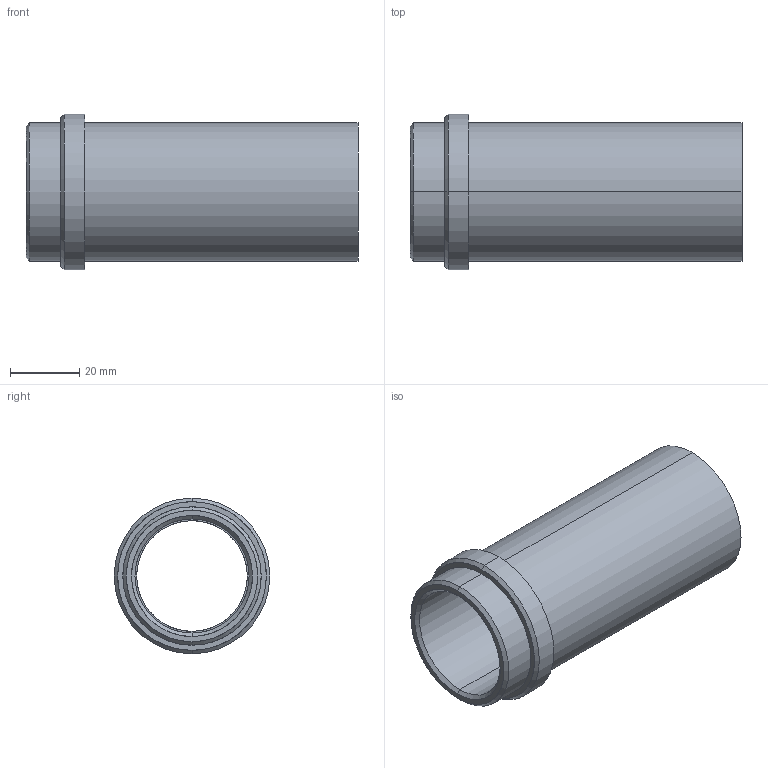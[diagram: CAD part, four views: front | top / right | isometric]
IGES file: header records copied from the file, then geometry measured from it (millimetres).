
Start section: START RECORD GO HERE.
Global section: file name: 358-32x96.igs; native system: DASSAULT SYSTEMES CATIA V5 R20 - www.3ds.com; preprocessor: CATIA Version 5 Release 20 ; author: Utente; organization: NB04-ASUS; date: 20210409.151411; units: millimetre
Bounding box: 96 x 45 x 45 mm (x, y, z)
Surface area: 23194.6 mm2 (no closed solid volume)
Topology: 0 solids, 0 shells, 23 faces, 148 edges, 148 vertices
Faces by surface type: revolution 18, plane 5
